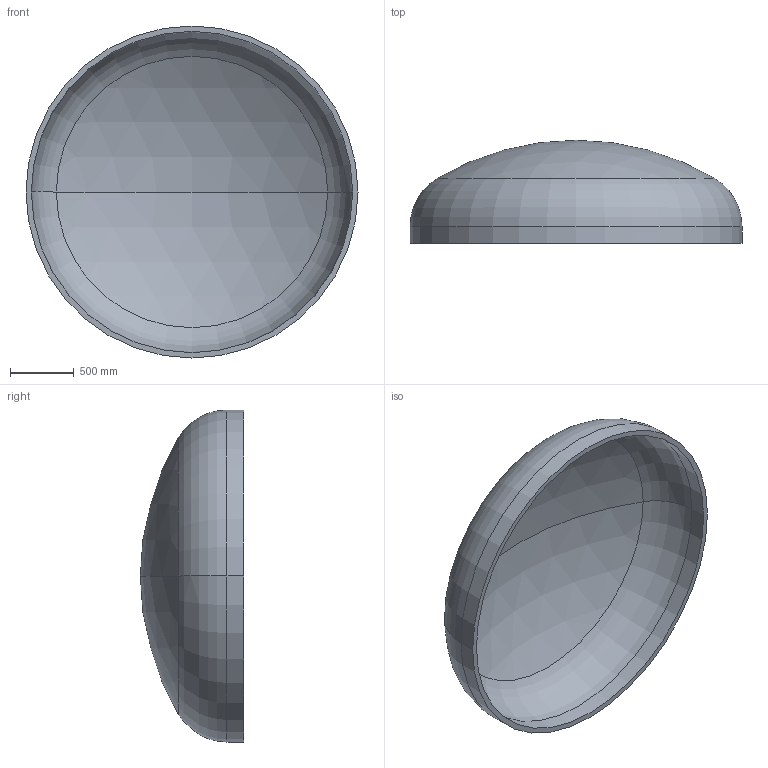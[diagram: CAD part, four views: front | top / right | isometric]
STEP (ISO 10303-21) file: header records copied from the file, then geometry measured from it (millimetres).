
FILE_DESCRIPTION (( 'STEP AP203' ), '1' );
FILE_NAME ('DIN 28013 Korbbogenform_-_Boden DIN 28013 - 2600 x 130 - I - s=42.step', '2016-07-01T16:11:35', ( '' ), ( '' ), 'SwSTEP 2.0', 'SolidWorks 2013', '' );
FILE_SCHEMA (( 'CONFIG_CONTROL_DESIGN' ));
Length unit declared in the file: millimetre
Products named in the file (1): DIN 28013 Korbbogenform_-_Boden DIN 28013 - 2600 x 130 - I - s=42
Bounding box: 2600 x 807.62 x 2600 mm (x, y, z)
Volume: 346141678.6 mm3; surface area: 16824146.2 mm2
Topology: 1 solids, 1 shells, 13 faces, 24 edges, 14 vertices
Faces by surface type: torus 4, cylinder 4, sphere 4, plane 1
Entity records: 407 total; most frequent: DIRECTION 72, CARTESIAN_POINT 52, ORIENTED_EDGE 48, AXIS2_PLACEMENT_3D 34, EDGE_CURVE 24, CIRCLE 20, VERTEX_POINT 14, EDGE_LOOP 14
